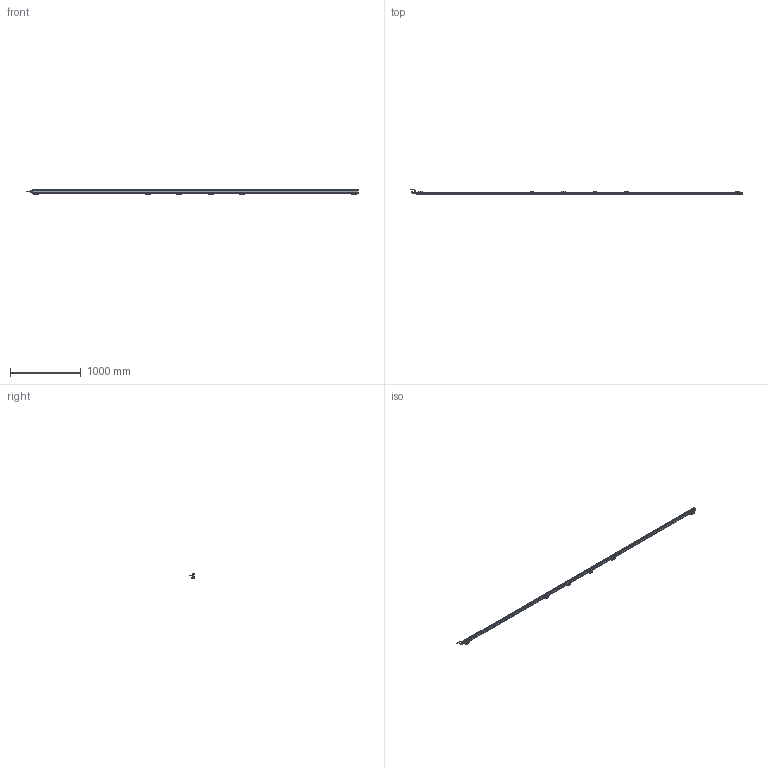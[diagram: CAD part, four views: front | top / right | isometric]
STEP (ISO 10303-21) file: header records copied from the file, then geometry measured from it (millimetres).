
FILE_DESCRIPTION(('Bauteilbeschreibung','HiCAD-Model','HiCAD-STEP-TRANSLATION','Bauteilbeschreibung'),'2;1');
FILE_NAME('PERFORMAXIQEASY_4530-4620_3D.STP','2014-03-05T13:44:37+00:00',('Konstrukteur'),('Konstrukteur Firma GmbH'),' HiCAD 2011, Step 1600.0 ','HiCAD 2011','confidential');
FILE_SCHEMA(('AUTOMOTIVE_DESIGN { 1 2 10303 214 0 1 1 1 }'));
Products named in the file (56): PERFORMAXIQEASY_4530_4620_3D; A_PERFORMAX IQ EASY 4530_4620; A_PERFORMAX IQ EASY SPEED; A_CAP DE; A_CAP CE_5; LED_2C_3MM; LED02C03MM; A519020315_CONNECTOR APPLIANCE; A_INSERT; A_CONTACTS; A_HOUSING; A_PROFILE; A_POTTING; PIN; PIN0; A532000100_BRACKET BARS_ MOUNT; A_SIDE PIECE; A0SIDE0PIECE; A_BRACKET SMALL; A_SLIDE PIECE; A5320001000BRACKET0BARS00MOUNT; A0SIDE0PIECE0; A0SIDE0PIECE1; A0BRACKET0SMALL; A0SLIDE0PIECE; A5320001000BRACKET0BARS00MOUNT0; A0SIDE0PIECE2; A0SIDE0PIECE3; A0BRACKET0SMALL0; A0SLIDE0PIECE0; A0SIDE0PIECE4; A0SIDE0PIECE5; A0BRACKET0SMALL1; A0SLIDE0PIECE1; A0SIDE0PIECE6; A0SIDE0PIECE7; A0BRACKET0SMALL2; A0SLIDE0PIECE2; A0SIDE0PIECE8; A0SIDE0PIECE9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
Assembly tree (55 placements, depth 5):
  PERFORMAXIQEASY_4530_4620_3D
    A_PERFORMAX IQ EASY 4530_4620
      A_PERFORMAX IQ EASY SPEED
        A_CAP DE
        A_CAP CE_5
        LED_2C_3MM
        LED02C03MM
        A519020315_CONNECTOR APPLIANCE
          A_INSERT
          A_CONTACTS
          A_HOUSING
        A_PROFILE
        A_POTTING
        PIN
        PIN0
      A532000100_BRACKET BARS_ MOUNT
        A_SIDE PIECE
        A0SIDE0PIECE
        A_BRACKET SMALL
        A_SLIDE PIECE
      A5320001000BRACKET0BARS00MOUNT
        A0SIDE0PIECE0
        A0SIDE0PIECE1
        A0BRACKET0SMALL
        A0SLIDE0PIECE
      A5320001000BRACKET0BARS00MOUNT0
        A0SIDE0PIECE2
        A0SIDE0PIECE3
        A0BRACKET0SMALL0
        A0SLIDE0PIECE0
      A5320001000BRACKET0BARS00MOUNT0
        A0SIDE0PIECE4
        A0SIDE0PIECE5
        A0BRACKET0SMALL1
        A0SLIDE0PIECE1
      A5320001000BRACKET0BARS00MOUNT0
        A0SIDE0PIECE6
        A0SIDE0PIECE7
        A0BRACKET0SMALL2
        A0SLIDE0PIECE2
      A5320001000BRACKET0BARS00MOUNT0
        A0SIDE0PIECE8
        A0SIDE0PIECE9
        A0BRACKET0SMALL3
        A0SLIDE0PIECE3
      A_CONNECTOR STRAIGHT
        EXTRUDED SOLID_0
        DRAAD GEBOGEN
        REVOLVED SOLID_1
        REVOLVED SOLID_3
      A_CONNECTOR ANGLED
        REVOLVED0SOLID01
        EXTRUDED0SOLID00
        C_EDGE SWEEP_0
        REVOLVED SOLID_2
        REVOLVED0SOLID03
Bounding box: 4697.89 x 84.24 x 63.13 mm (x, y, z)
Volume: 4735171 mm3; surface area: 1130375.1 mm2
Topology: 49 solids, 49 shells, 4983 faces, 12800 edges, 7585 vertices
Faces by surface type: cylinder 2137, plane 1879, sphere 332, torus 299, bspline 248, cone 88
Full cylindrical faces by diameter (mm): 0.8 x10, 1 x5, 2.387 x12, 3 x27, 3.1 x1, 4.2 x2, 5 x4, 5.5 x30, 8 x2, 8.2 x1, 8.4 x2, 8.945 x1, 9 x2, 10.2 x1, 10.5 x3, 11 x1, 12 x3, 12.8 x1, 13.8 x4, 14.5 x3
Entity records: 231105 total; most frequent: CARTESIAN_POINT 54548, DIRECTION 24777, ORIENTED_EDGE 24320, EDGE_CURVE 12160, COLOUR_RGB 11541, PRESENTATION_STYLE_ASSIGNMENT 11541, OVER_RIDING_STYLED_ITEM 11497, CURVE_STYLE 11492
